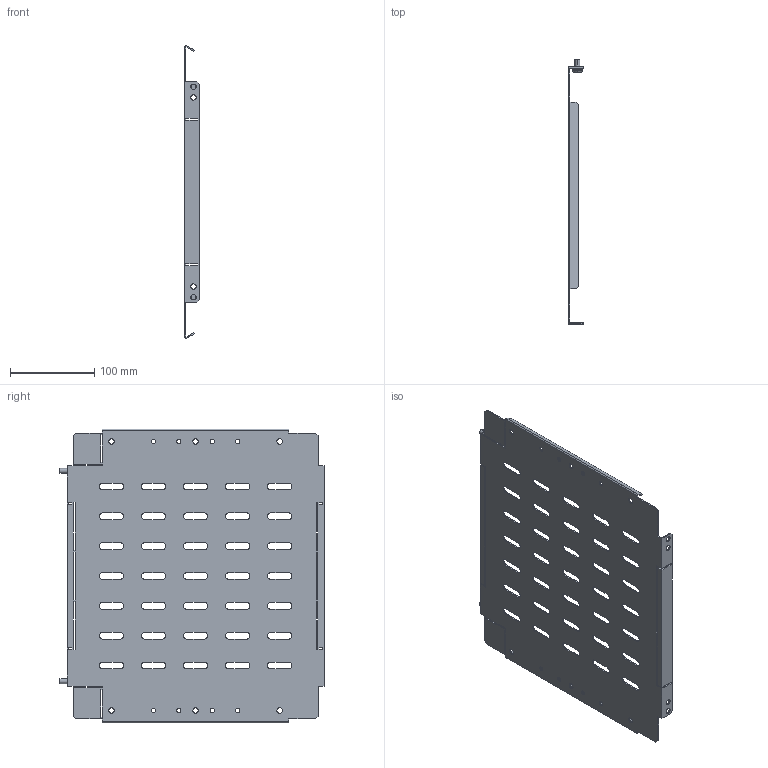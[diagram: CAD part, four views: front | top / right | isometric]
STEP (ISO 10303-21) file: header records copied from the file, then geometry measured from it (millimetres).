
FILE_DESCRIPTION (( 'STEP AP214' ), '1' );
FILE_NAME ('FO-00-SWV-035-040 Ïåðåãîðîäêà ñåêöèîíèðîâàíèÿ âåðòèêàëüíàÿ 350õ400 ìì.STEP', '2025-08-11T07:55:08', ( '' ), ( '' ), 'SwSTEP 2.0', 'SolidWorks 2023', '' );
FILE_SCHEMA (( 'AUTOMOTIVE_DESIGN' ));
Length unit declared in the file: millimetre
Products named in the file (1): FO-00-SWV-035-040 Перегородка секционирования вертикальная 350х400 мм
Bounding box: 17.5 x 314 x 348.93 mm (x, y, z)
Volume: 163836.3 mm3; surface area: 225738.8 mm2
Topology: 1 solids, 1 shells, 352 faces, 1038 edges, 688 vertices
Faces by surface type: plane 218, cylinder 122, torus 8, cone 4
Entity records: 12029 total; most frequent: CARTESIAN_POINT 2079, ORIENTED_EDGE 2076, DIRECTION 2008, EDGE_CURVE 1038, LINE 774, VECTOR 774, VERTEX_POINT 688, AXIS2_PLACEMENT_3D 617
